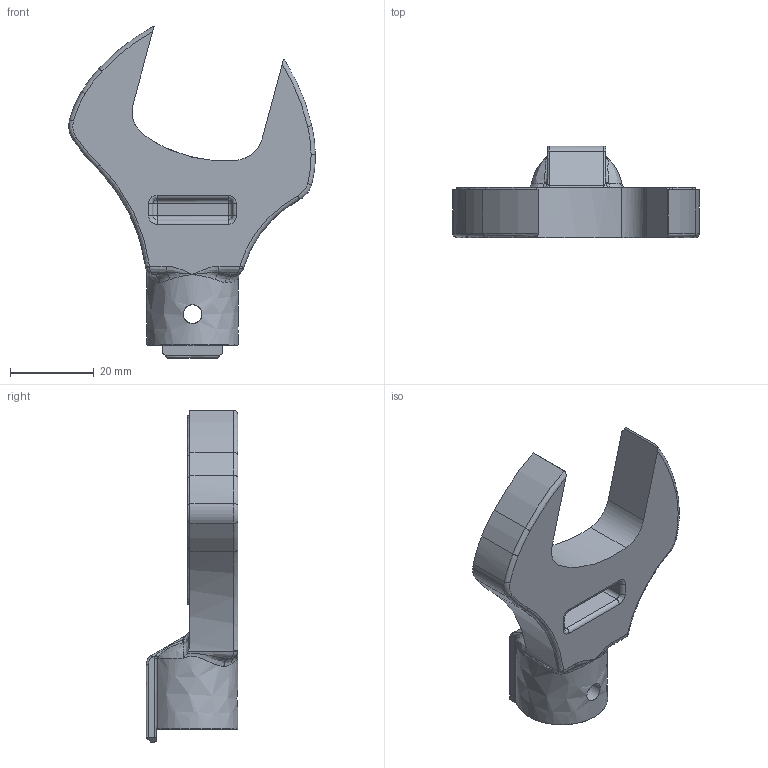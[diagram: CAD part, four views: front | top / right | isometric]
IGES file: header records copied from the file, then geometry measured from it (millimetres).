
Global section: file name: SH15DX32; native system: Autodesk Inventor 2016; preprocessor: unknown; author: Q600; date: 20151029.183805; units: millimetre
Bounding box: 59.04 x 22 x 79.49 mm (x, y, z)
Volume: 22297.4 mm3; surface area: 8693.5 mm2
Topology: 1 solids, 1 shells, 136 faces, 358 edges, 216 vertices
Faces by surface type: bspline 136
